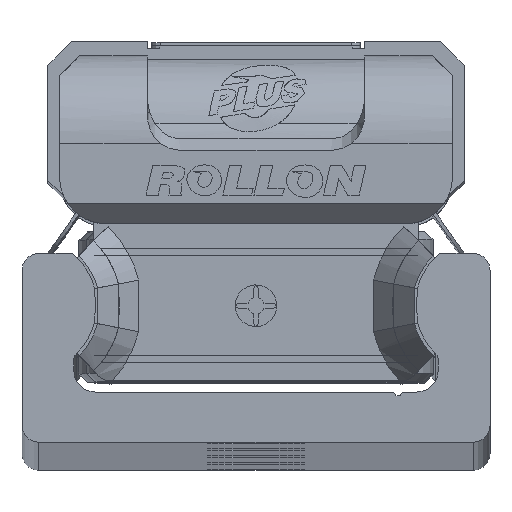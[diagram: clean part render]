
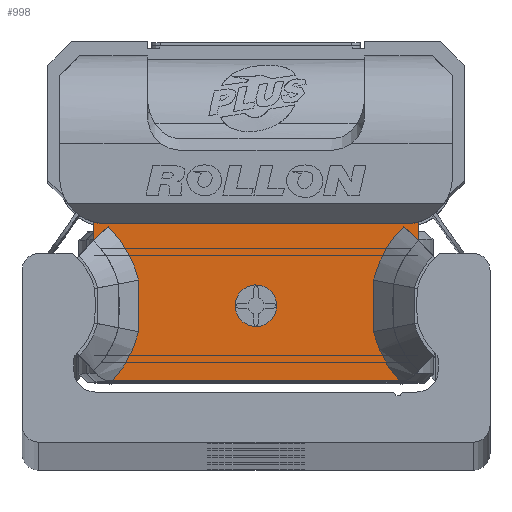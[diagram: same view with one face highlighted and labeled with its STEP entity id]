
A CAD part, top view. The second image highlights one B-rep face of the part: STEP entity #998.
In plain terms, the highlighted planar face has unit normal (0, 0, 1) as drawn and (0, 0, -1) by its records, which use the part's own axes.
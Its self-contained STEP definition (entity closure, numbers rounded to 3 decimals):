
#998 = ADVANCED_FACE( '', ( #2511, #2512 ), #2513, .F. );
#2511 = FACE_BOUND( '', #4705, .T. );
#2512 = FACE_OUTER_BOUND( '', #4706, .T. );
#2513 = PLANE( '', #4707 );
#4705 = EDGE_LOOP( '', ( #7615 ) );
#4706 = EDGE_LOOP( '', ( #7616, #7617, #7618, #7619, #7620, #7621, #7622, #7623, #7624, #7625, #7626, #7627, #7628, #7629 ) );
#4707 = AXIS2_PLACEMENT_3D( '', #7630, #7631, #7632 );
#7615 = ORIENTED_EDGE( '', *, *, #12887, .T. );
#7616 = ORIENTED_EDGE( '', *, *, #12888, .F. );
#7617 = ORIENTED_EDGE( '', *, *, #12889, .T. );
#7618 = ORIENTED_EDGE( '', *, *, #12890, .T. );
#7619 = ORIENTED_EDGE( '', *, *, #12891, .T. );
#7620 = ORIENTED_EDGE( '', *, *, #12524, .T. );
#7621 = ORIENTED_EDGE( '', *, *, #12892, .T. );
#7622 = ORIENTED_EDGE( '', *, *, #12893, .T. );
#7623 = ORIENTED_EDGE( '', *, *, #12894, .T. );
#7624 = ORIENTED_EDGE( '', *, *, #12760, .T. );
#7625 = ORIENTED_EDGE( '', *, *, #12895, .T. );
#7626 = ORIENTED_EDGE( '', *, *, #12896, .T. );
#7627 = ORIENTED_EDGE( '', *, *, #12897, .T. );
#7628 = ORIENTED_EDGE( '', *, *, #12898, .T. );
#7629 = ORIENTED_EDGE( '', *, *, #12899, .T. );
#7630 = CARTESIAN_POINT( '', ( 9.7, 4.89, -10.6 ) );
#7631 = DIRECTION( '', ( 0., 0., 1. ) );
#7632 = DIRECTION( '', ( 1., 0., 0. ) );
#12524 = EDGE_CURVE( '', #14929, #14930, #14931, .T. );
#12760 = EDGE_CURVE( '', #15350, #15347, #15351, .T. );
#12887 = EDGE_CURVE( '', #15572, #15572, #15573, .T. );
#12888 = EDGE_CURVE( '', #15574, #15575, #15576, .T. );
#12889 = EDGE_CURVE( '', #15574, #15577, #15578, .T. );
#12890 = EDGE_CURVE( '', #15577, #15579, #15580, .T. );
#12891 = EDGE_CURVE( '', #15579, #14929, #15581, .T. );
#12892 = EDGE_CURVE( '', #14930, #15582, #15583, .T. );
#12893 = EDGE_CURVE( '', #15582, #15584, #15585, .T. );
#12894 = EDGE_CURVE( '', #15584, #15350, #15586, .T. );
#12895 = EDGE_CURVE( '', #15347, #15587, #15588, .T. );
#12896 = EDGE_CURVE( '', #15587, #15589, #15590, .T. );
#12897 = EDGE_CURVE( '', #15589, #15591, #15592, .T. );
#12898 = EDGE_CURVE( '', #15591, #15593, #15594, .T. );
#12899 = EDGE_CURVE( '', #15593, #15575, #15595, .T. );
#14929 = VERTEX_POINT( '', #18392 );
#14930 = VERTEX_POINT( '', #18393 );
#14931 = LINE( '', #18394, #18395 );
#15347 = VERTEX_POINT( '', #19008 );
#15350 = VERTEX_POINT( '', #19016 );
#15351 = B_SPLINE_CURVE_WITH_KNOTS( '', 2, ( #19017, #19018, #19019 ), .UNSPECIFIED., .F., .F., ( 3, 3 ), ( 0., 1. ), .UNSPECIFIED. );
#15572 = VERTEX_POINT( '', #19365 );
#15573 = CIRCLE( '', #19366, 1.25 );
#15574 = VERTEX_POINT( '', #19367 );
#15575 = VERTEX_POINT( '', #19368 );
#15576 = LINE( '', #19369, #19370 );
#15577 = VERTEX_POINT( '', #19371 );
#15578 = CIRCLE( '', #19372, 2.8 );
#15579 = VERTEX_POINT( '', #19373 );
#15580 = LINE( '', #19374, #19375 );
#15581 = CIRCLE( '', #19376, 2.8 );
#15582 = VERTEX_POINT( '', #19377 );
#15583 = LINE( '', #19378, #19379 );
#15584 = VERTEX_POINT( '', #19380 );
#15585 = B_SPLINE_CURVE_WITH_KNOTS( '', 2, ( #19381, #19382, #19383, #19384, #19385 ), .UNSPECIFIED., .F., .F., ( 3, 2, 3 ), ( 0., 0.5, 1. ), .UNSPECIFIED. );
#15586 = B_SPLINE_CURVE_WITH_KNOTS( '', 2, ( #19386, #19387, #19388 ), .UNSPECIFIED., .F., .F., ( 3, 3 ), ( 0., 1. ), .UNSPECIFIED. );
#15587 = VERTEX_POINT( '', #19389 );
#15588 = LINE( '', #19390, #19391 );
#15589 = VERTEX_POINT( '', #19392 );
#15590 = B_SPLINE_CURVE_WITH_KNOTS( '', 2, ( #19393, #19394, #19395 ), .UNSPECIFIED., .F., .F., ( 3, 3 ), ( 0.1, 1. ), .UNSPECIFIED. );
#15591 = VERTEX_POINT( '', #19396 );
#15592 = B_SPLINE_CURVE_WITH_KNOTS( '', 2, ( #19397, #19398, #19399 ), .UNSPECIFIED., .F., .F., ( 3, 3 ), ( 0., 1. ), .UNSPECIFIED. );
#15593 = VERTEX_POINT( '', #19400 );
#15594 = B_SPLINE_CURVE_WITH_KNOTS( '', 2, ( #19401, #19402, #19403 ), .UNSPECIFIED., .F., .F., ( 3, 3 ), ( 0., 1. ), .UNSPECIFIED. );
#15595 = LINE( '', #19404, #19405 );
#18392 = CARTESIAN_POINT( '', ( 9.7, 4.612, -10.6 ) );
#18393 = CARTESIAN_POINT( '', ( 9.7, 3.497, -10.6 ) );
#18394 = CARTESIAN_POINT( '', ( 9.7, 4.89, -10.6 ) );
#18395 = VECTOR( '', #22707, 1000. );
#19008 = CARTESIAN_POINT( '', ( 8.59, -4.893, -10.6 ) );
#19016 = CARTESIAN_POINT( '', ( 7.031, -1.944, -10.6 ) );
#19017 = CARTESIAN_POINT( '', ( 7.031, -1.944, -10.6 ) );
#19018 = CARTESIAN_POINT( '', ( 7.429, -3.615, -10.6 ) );
#19019 = CARTESIAN_POINT( '', ( 8.588, -4.89, -10.6 ) );
#19365 = CARTESIAN_POINT( '', ( 1.25, -0.39, -10.6 ) );
#19366 = AXIS2_PLACEMENT_3D( '', #23280, #23281, #23282 );
#19367 = CARTESIAN_POINT( '', ( -9.7, 4.612, -10.6 ) );
#19368 = CARTESIAN_POINT( '', ( -9.7, 3.494, -10.6 ) );
#19369 = CARTESIAN_POINT( '', ( -9.7, 4.89, -10.6 ) );
#19370 = VECTOR( '', #23283, 1000. );
#19371 = CARTESIAN_POINT( '', ( -8.95, 4.51, -10.6 ) );
#19372 = AXIS2_PLACEMENT_3D( '', #23284, #23285, #23286 );
#19373 = CARTESIAN_POINT( '', ( 8.95, 4.51, -10.6 ) );
#19374 = CARTESIAN_POINT( '', ( 9.7, 4.51, -10.6 ) );
#19375 = VECTOR( '', #23287, 1000. );
#19376 = AXIS2_PLACEMENT_3D( '', #23288, #23289, #23290 );
#19377 = CARTESIAN_POINT( '', ( 8.853, 4.366, -10.6 ) );
#19378 = CARTESIAN_POINT( '', ( 9.7, 3.501, -10.6 ) );
#19379 = VECTOR( '', #23291, 1000. );
#19380 = CARTESIAN_POINT( '', ( 7.031, 1.144, -10.6 ) );
#19381 = CARTESIAN_POINT( '', ( 8.853, 4.366, -10.6 ) );
#19382 = CARTESIAN_POINT( '', ( 8.182, 3.708, -10.6 ) );
#19383 = CARTESIAN_POINT( '', ( 7.715, 2.883, -10.6 ) );
#19384 = CARTESIAN_POINT( '', ( 7.249, 2.058, -10.6 ) );
#19385 = CARTESIAN_POINT( '', ( 7.031, 1.144, -10.6 ) );
#19386 = CARTESIAN_POINT( '', ( 7.031, 1.144, -10.6 ) );
#19387 = CARTESIAN_POINT( '', ( 6.929, -0.4, -10.6 ) );
#19388 = CARTESIAN_POINT( '', ( 7.031, -1.944, -10.6 ) );
#19389 = CARTESIAN_POINT( '', ( -8.59, -4.893, -10.6 ) );
#19390 = CARTESIAN_POINT( '', ( 9.7, -4.89, -10.6 ) );
#19391 = VECTOR( '', #23292, 1000. );
#19392 = CARTESIAN_POINT( '', ( -7.031, -1.944, -10.6 ) );
#19393 = CARTESIAN_POINT( '', ( -8.587, -4.89, -10.6 ) );
#19394 = CARTESIAN_POINT( '', ( -7.432, -3.63, -10.6 ) );
#19395 = CARTESIAN_POINT( '', ( -7.031, -1.944, -10.6 ) );
#19396 = CARTESIAN_POINT( '', ( -7.031, 1.144, -10.6 ) );
#19397 = CARTESIAN_POINT( '', ( -7.031, -1.944, -10.6 ) );
#19398 = CARTESIAN_POINT( '', ( -6.929, -0.4, -10.6 ) );
#19399 = CARTESIAN_POINT( '', ( -7.031, 1.144, -10.6 ) );
#19400 = CARTESIAN_POINT( '', ( -8.853, 4.366, -10.6 ) );
#19401 = CARTESIAN_POINT( '', ( -7.031, 1.144, -10.6 ) );
#19402 = CARTESIAN_POINT( '', ( -7.477, 3.018, -10.6 ) );
#19403 = CARTESIAN_POINT( '', ( -8.853, 4.366, -10.6 ) );
#19404 = CARTESIAN_POINT( '', ( -8.853, 4.366, -10.6 ) );
#19405 = VECTOR( '', #23293, 1000. );
#22707 = DIRECTION( '', ( 0., -1., 0. ) );
#23280 = CARTESIAN_POINT( '', ( 0., -0.39, -10.6 ) );
#23281 = DIRECTION( '', ( 0., 0., 1. ) );
#23282 = DIRECTION( '', ( 1., 0., 0. ) );
#23283 = DIRECTION( '', ( 0., -1., 0. ) );
#23284 = CARTESIAN_POINT( '', ( -8.95, 7.31, -10.6 ) );
#23285 = DIRECTION( '', ( 0., 0., 1. ) );
#23286 = DIRECTION( '', ( 1., 0., 0. ) );
#23287 = DIRECTION( '', ( 1., 0., 0. ) );
#23288 = CARTESIAN_POINT( '', ( 8.95, 7.31, -10.6 ) );
#23289 = DIRECTION( '', ( 0., 0., 1. ) );
#23290 = DIRECTION( '', ( 1., 0., 0. ) );
#23291 = DIRECTION( '', ( -0.7, 0.714, 0. ) );
#23292 = DIRECTION( '', ( -1., 0., 0. ) );
#23293 = DIRECTION( '', ( -0.7, -0.714, 0. ) );
